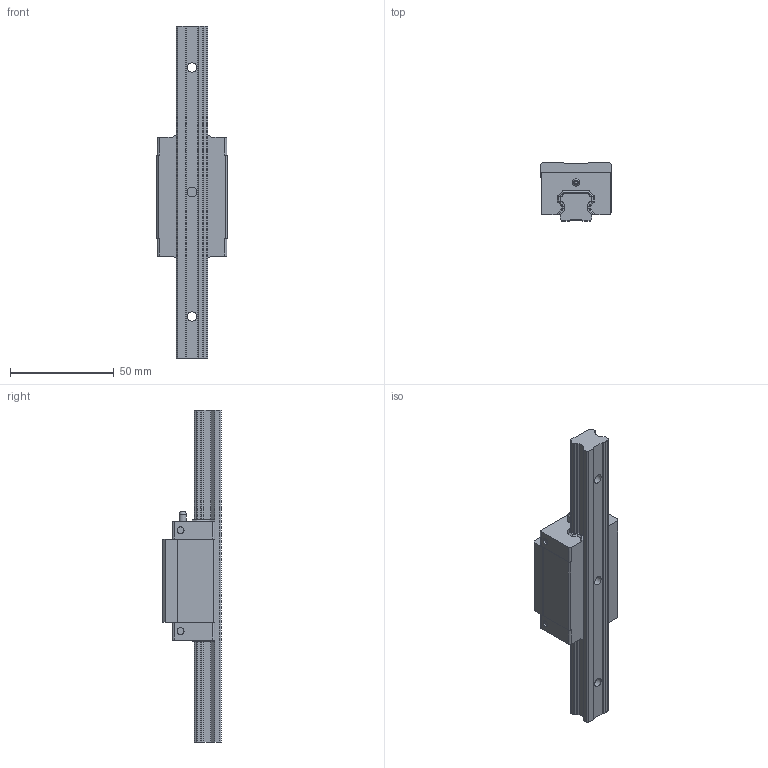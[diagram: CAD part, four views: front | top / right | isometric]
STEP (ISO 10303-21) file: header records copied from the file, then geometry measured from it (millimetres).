
FILE_DESCRIPTION((''),'2;1');
FILE_NAME('D:\製品 (図面)\カタログ用3D\変換ファイル\OZAK_3D-CAD(STEP形式)\Part2.-Linear Guides_ﾘﾆｱｶﾞｲﾄﾞ\07_Eco Guides_ｴｺｶﾞｲﾄﾞ\EGH\EGH15.stp','2010-12-22T11:11:12',('Tsuchiya'),(''),'Autodesk Inventor 10','Autodesk Inventor 10','');
FILE_SCHEMA(('AUTOMOTIVE_DESIGN { 1 0 10303 214 1 1 1 1 }'));
Length unit declared in the file: millimetre
Products named in the file (3): EGH15; EGH151; EGH152
Assembly tree (2 placements, depth 2):
  EGH15
    EGH151
    EGH152
Bounding box: 34 x 28 x 160 mm (x, y, z)
Volume: 63632.5 mm3; surface area: 20020.6 mm2
Topology: 2 solids, 3 shells, 192 faces, 504 edges, 332 vertices
Faces by surface type: plane 107, cylinder 55, cone 28, sphere 2
Full cylindrical faces by diameter (mm): 3 x1, 3.3 x10, 3.5 x1, 4 x4, 4.5 x3, 7.5 x3
Entity records: 5843 total; most frequent: CARTESIAN_POINT 1041, DIRECTION 1011, ORIENTED_EDGE 936, EDGE_CURVE 468, AXIS2_PLACEMENT_3D 362, VERTEX_POINT 328, VECTOR 287, LINE 287
